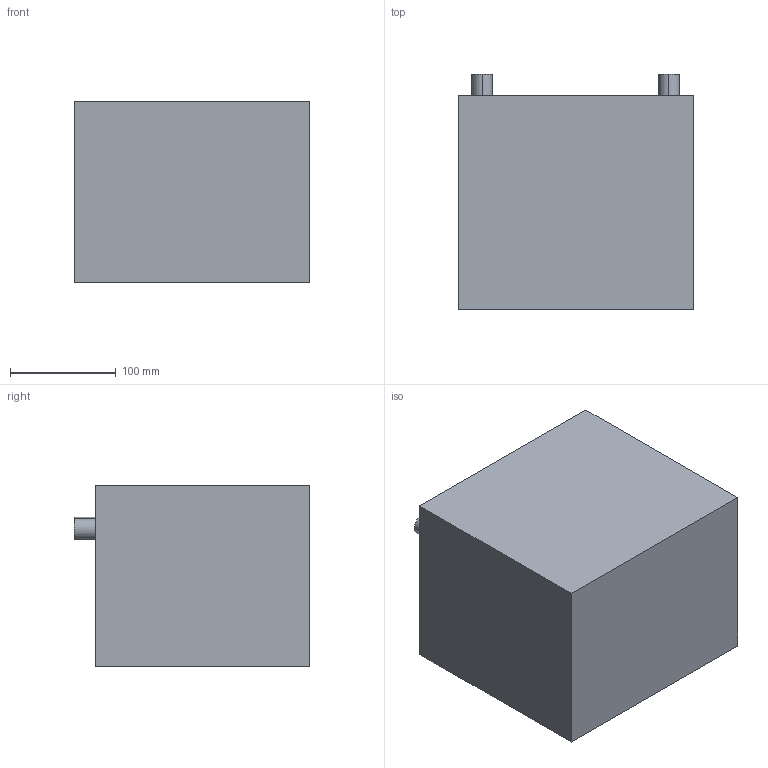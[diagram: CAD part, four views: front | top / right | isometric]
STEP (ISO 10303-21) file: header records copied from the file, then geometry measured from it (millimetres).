
FILE_DESCRIPTION (( 'STEP AP203' ), '1' );
FILE_NAME ('6-QW-60(500).STEP', '2024-06-13T08:51:12', ( '' ), ( '' ), 'SwSTEP 2.0', 'SolidWorks 2020', '' );
FILE_SCHEMA (( 'CONFIG_CONTROL_DESIGN' ));
Length unit declared in the file: millimetre
Products named in the file (1): 6-QW-60(500)
Bounding box: 222.4 x 223 x 172 mm (x, y, z)
Volume: 7777264.3 mm3; surface area: 239082.4 mm2
Topology: 1 solids, 1 shells, 12 faces, 24 edges, 16 vertices
Faces by surface type: plane 8, cylinder 4
Entity records: 393 total; most frequent: DIRECTION 58, CARTESIAN_POINT 53, ORIENTED_EDGE 48, EDGE_CURVE 24, AXIS2_PLACEMENT_3D 21, VECTOR 16, LINE 16, VERTEX_POINT 16
